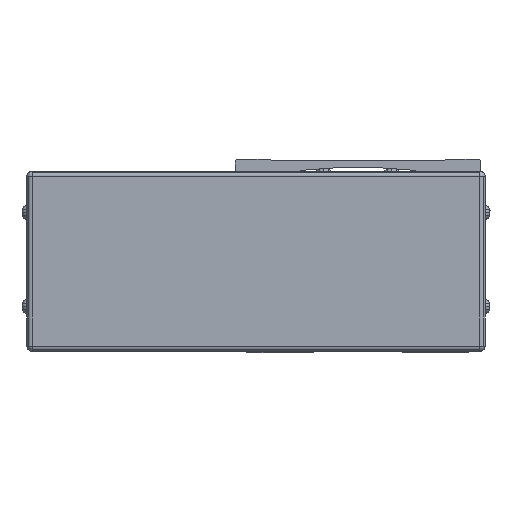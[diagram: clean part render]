
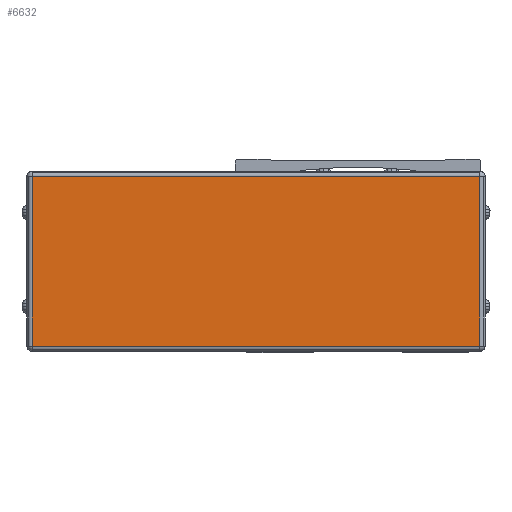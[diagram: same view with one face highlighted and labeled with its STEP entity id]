
A CAD part, front view. The second image highlights one B-rep face of the part: STEP entity #6632.
In plain terms, the highlighted planar face has unit normal (0, -1, 0).
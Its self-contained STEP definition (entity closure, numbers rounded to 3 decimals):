
#6632=ADVANCED_FACE('',(#13773),#13774,.F.);
#13773=FACE_OUTER_BOUND('',#22780,.T.);
#13774=PLANE('',#22781);
#22780=EDGE_LOOP('',(#42056,#42057,#42058,#42059));
#22781=AXIS2_PLACEMENT_3D('',#42060,#42061,#42062);
#42056=ORIENTED_EDGE('',*,*,#51927,.T.);
#42057=ORIENTED_EDGE('',*,*,#47642,.T.);
#42058=ORIENTED_EDGE('',*,*,#54573,.T.);
#42059=ORIENTED_EDGE('',*,*,#54634,.T.);
#42060=CARTESIAN_POINT('',(-39.,-188.778,-42.5));
#42061=DIRECTION('',(0.0,1.0,-0.0));
#42062=DIRECTION('',(-1.0,0.0,0.0));
#47642=EDGE_CURVE('',#56956,#56954,#56957,.T.);
#51927=EDGE_CURVE('',#63910,#56956,#63911,.T.);
#54573=EDGE_CURVE('',#56954,#66076,#67365,.T.);
#54634=EDGE_CURVE('',#66076,#63910,#67432,.T.);
#56954=VERTEX_POINT('',#70359);
#56956=VERTEX_POINT('',#70361);
#56957=LINE('',#70362,#70363);
#63910=VERTEX_POINT('',#80417);
#63911=LINE('',#80418,#80419);
#66076=VERTEX_POINT('',#83966);
#67365=LINE('',#85985,#85986);
#67432=LINE('',#86092,#86093);
#70359=CARTESIAN_POINT('',(46.7,-188.778,24.5));
#70361=CARTESIAN_POINT('',(46.7,-188.778,-40.5));
#70362=CARTESIAN_POINT('',(46.7,-188.778,-42.5));
#70363=VECTOR('',#88418,10.0);
#80417=CARTESIAN_POINT('',(-124.7,-188.778,-40.5));
#80418=CARTESIAN_POINT('',(-39.,-188.778,-40.5));
#80419=VECTOR('',#93761,10.0);
#83966=CARTESIAN_POINT('',(-124.7,-188.778,24.5));
#85985=CARTESIAN_POINT('',(-39.,-188.778,24.5));
#85986=VECTOR('',#96533,10.0);
#86092=CARTESIAN_POINT('',(-124.7,-188.778,-42.5));
#86093=VECTOR('',#96588,10.0);
#88418=DIRECTION('',(0.0,0.0,1.0));
#93761=DIRECTION('',(1.0,0.0,0.0));
#96533=DIRECTION('',(-1.0,0.0,0.0));
#96588=DIRECTION('',(-0.0,0.0,-1.0));
